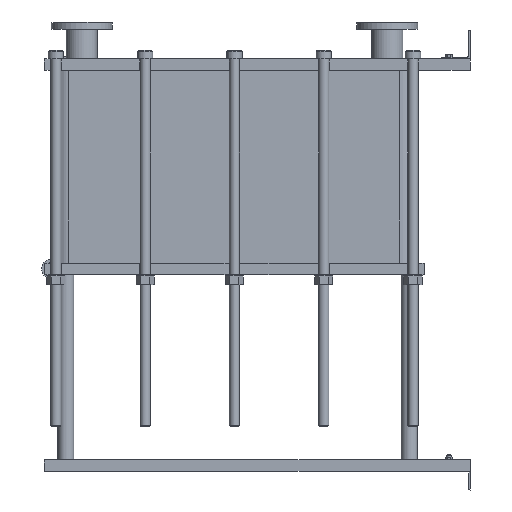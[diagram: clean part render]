
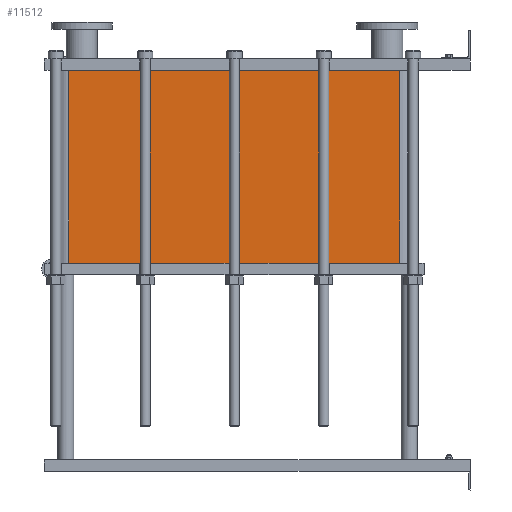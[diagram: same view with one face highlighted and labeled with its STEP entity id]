
A CAD part, left-side view. The second image highlights one B-rep face of the part: STEP entity #11512.
In plain terms, the highlighted planar face has unit normal (-1, 0, 0).
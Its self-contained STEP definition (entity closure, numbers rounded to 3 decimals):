
#1129=LINE('',#23232,#2102);
#1130=LINE('',#23236,#2103);
#1131=LINE('',#23238,#2104);
#1132=LINE('',#23239,#2105);
#2102=VECTOR('',#15887,10.);
#2103=VECTOR('',#15892,10.);
#2104=VECTOR('',#15893,10.);
#2105=VECTOR('',#15894,10.);
#3267=FACE_OUTER_BOUND('',#4093,.T.);
#4093=EDGE_LOOP('',(#10103,#10104,#10105,#10106));
#5642=VERTEX_POINT('',#23229);
#5643=VERTEX_POINT('',#23231);
#5644=VERTEX_POINT('',#23235);
#5645=VERTEX_POINT('',#23237);
#7159=EDGE_CURVE('',#5643,#5642,#1129,.T.);
#7161=EDGE_CURVE('',#5642,#5644,#1130,.T.);
#7162=EDGE_CURVE('',#5645,#5644,#1131,.T.);
#7163=EDGE_CURVE('',#5645,#5643,#1132,.T.);
#10103=ORIENTED_EDGE('',*,*,#7161,.T.);
#10104=ORIENTED_EDGE('',*,*,#7162,.F.);
#10105=ORIENTED_EDGE('',*,*,#7163,.T.);
#10106=ORIENTED_EDGE('',*,*,#7159,.T.);
#10857=PLANE('',#12751);
#11512=ADVANCED_FACE('',(#3267),#10857,.T.);
#12751=AXIS2_PLACEMENT_3D('',#23234,#15890,#15891);
#15887=DIRECTION('',(0.,0.,-1.));
#15890=DIRECTION('center_axis',(-1.,0.,0.));
#15891=DIRECTION('ref_axis',(0.,1.,0.));
#15892=DIRECTION('',(0.,-1.,0.));
#15893=DIRECTION('',(0.,0.,-1.));
#15894=DIRECTION('',(0.,1.,0.));
#23229=CARTESIAN_POINT('',(-200.,1414.,-679.65));
#23231=CARTESIAN_POINT('',(-200.,1414.,0.));
#23232=CARTESIAN_POINT('',(-200.,1414.,0.));
#23234=CARTESIAN_POINT('Origin',(-200.,248.,0.));
#23235=CARTESIAN_POINT('',(-200.,248.,-679.65));
#23236=CARTESIAN_POINT('',(-200.,539.5,-679.65));
#23237=CARTESIAN_POINT('',(-200.,248.,0.));
#23238=CARTESIAN_POINT('',(-200.,248.,0.));
#23239=CARTESIAN_POINT('',(-200.,248.,0.));
